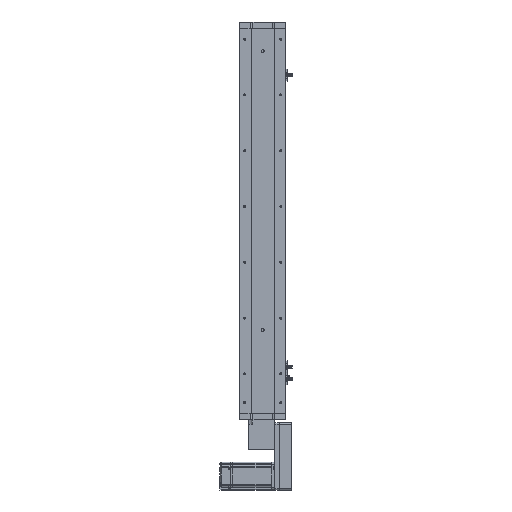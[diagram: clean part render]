
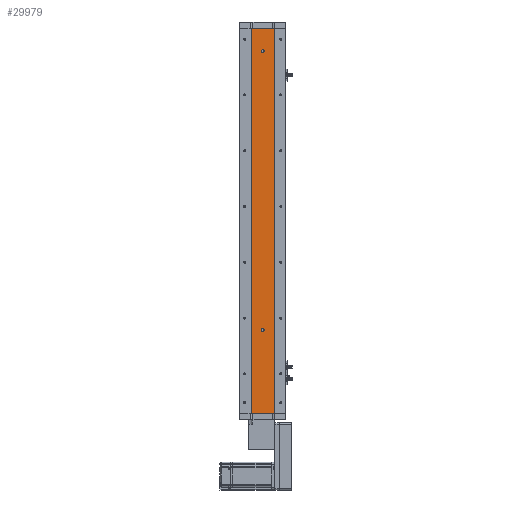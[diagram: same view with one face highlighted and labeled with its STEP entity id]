
A CAD part, left-side view. The second image highlights one B-rep face of the part: STEP entity #29979.
In plain terms, the highlighted planar face has unit normal (-1, 0, 0).
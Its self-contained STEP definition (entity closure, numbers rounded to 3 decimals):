
#265 = ORIENTED_EDGE ( 'NONE', *, *, #65372, .F. ) ;
#593 = ORIENTED_EDGE ( 'NONE', *, *, #55861, .T. ) ;
#883 = CARTESIAN_POINT ( 'NONE',  ( -18.926, -24.785, 830. ) ) ;
#3425 = AXIS2_PLACEMENT_3D ( 'NONE', #50177, #19697, #55318 ) ;
#3652 = DIRECTION ( 'NONE',  ( -1., 0., 0. ) ) ;
#3780 = CARTESIAN_POINT ( 'NONE',  ( -18.926, 0., 183. ) ) ;
#4413 = FACE_OUTER_BOUND ( 'NONE', #5155, .T. ) ;
#5155 = EDGE_LOOP ( 'NONE', ( #593, #27375, #29600, #21402 ) ) ;
#7337 = DIRECTION ( 'NONE',  ( -1., 0., 0. ) ) ;
#7818 = CARTESIAN_POINT ( 'NONE',  ( -18.926, 0., 180. ) ) ;
#8416 = VECTOR ( 'NONE', #64042, 1000. ) ;
#10630 = VECTOR ( 'NONE', #35107, 1000. ) ;
#12945 = DIRECTION ( 'NONE',  ( 0., 0., 1. ) ) ;
#16030 = CARTESIAN_POINT ( 'NONE',  ( -18.926, 0., 777. ) ) ;
#16391 = FACE_BOUND ( 'NONE', #19102, .T. ) ;
#17150 = ORIENTED_EDGE ( 'NONE', *, *, #58296, .F. ) ;
#17684 = VERTEX_POINT ( 'NONE', #39432 ) ;
#18221 = CARTESIAN_POINT ( 'NONE',  ( -18.926, 24.785, 830. ) ) ;
#18268 = ORIENTED_EDGE ( 'NONE', *, *, #56943, .F. ) ;
#19102 = EDGE_LOOP ( 'NONE', ( #265, #18268 ) ) ;
#19697 = DIRECTION ( 'NONE',  ( 1., 0., 0. ) ) ;
#21286 = CARTESIAN_POINT ( 'NONE',  ( -18.926, 0., 177. ) ) ;
#21402 = ORIENTED_EDGE ( 'NONE', *, *, #64392, .T. ) ;
#24218 = LINE ( 'NONE', #55366, #10630 ) ;
#25687 = ORIENTED_EDGE ( 'NONE', *, *, #44570, .F. ) ;
#26439 = DIRECTION ( 'NONE',  ( -1., 0., 0. ) ) ;
#27256 = EDGE_CURVE ( 'NONE', #17684, #56286, #45134, .T. ) ;
#27375 = ORIENTED_EDGE ( 'NONE', *, *, #27256, .F. ) ;
#29600 = ORIENTED_EDGE ( 'NONE', *, *, #63826, .F. ) ;
#29979 = ADVANCED_FACE ( 'NONE', ( #16391, #57011, #4413 ), #60219, .F. ) ;
#31233 = CIRCLE ( 'NONE', #54020, 3. ) ;
#31352 = CARTESIAN_POINT ( 'NONE',  ( -18.926, 24.785, 0. ) ) ;
#31972 = CARTESIAN_POINT ( 'NONE',  ( -18.926, 24.785, 0. ) ) ;
#32876 = VERTEX_POINT ( 'NONE', #43118 ) ;
#33250 = VECTOR ( 'NONE', #46496, 1000. ) ;
#33974 = LINE ( 'NONE', #18221, #8416 ) ;
#34087 = CARTESIAN_POINT ( 'NONE',  ( -18.926, -24.785, 0. ) ) ;
#34228 = CARTESIAN_POINT ( 'NONE',  ( -18.926, 0., 180. ) ) ;
#35107 = DIRECTION ( 'NONE',  ( 0., 0., -1. ) ) ;
#37915 = CARTESIAN_POINT ( 'NONE',  ( -18.926, 0., 780. ) ) ;
#38760 = CIRCLE ( 'NONE', #45529, 3. ) ;
#38983 = LINE ( 'NONE', #31972, #50828 ) ;
#39346 = DIRECTION ( 'NONE',  ( 0., 0., 1. ) ) ;
#39432 = CARTESIAN_POINT ( 'NONE',  ( -18.926, -24.785, 830. ) ) ;
#42234 = DIRECTION ( 'NONE',  ( 0., -1., 0. ) ) ;
#43016 = DIRECTION ( 'NONE',  ( 0., 0., 1. ) ) ;
#43118 = CARTESIAN_POINT ( 'NONE',  ( -18.926, 0., 783. ) ) ;
#43172 = VERTEX_POINT ( 'NONE', #31352 ) ;
#43449 = DIRECTION ( 'NONE',  ( -1., 0., 0. ) ) ;
#44570 = EDGE_CURVE ( 'NONE', #32876, #46272, #31233, .T. ) ;
#45134 = LINE ( 'NONE', #883, #33250 ) ;
#45529 = AXIS2_PLACEMENT_3D ( 'NONE', #34228, #3652, #39346 ) ;
#46232 = AXIS2_PLACEMENT_3D ( 'NONE', #7818, #43449, #12945 ) ;
#46272 = VERTEX_POINT ( 'NONE', #16030 ) ;
#46496 = DIRECTION ( 'NONE',  ( 0., 0., -1. ) ) ;
#50177 = CARTESIAN_POINT ( 'NONE',  ( -18.926, 24.785, 830. ) ) ;
#50828 = VECTOR ( 'NONE', #42234, 1000. ) ;
#51813 = VERTEX_POINT ( 'NONE', #3780 ) ;
#52157 = CARTESIAN_POINT ( 'NONE',  ( -18.926, 24.785, 830. ) ) ;
#52484 = EDGE_LOOP ( 'NONE', ( #25687, #17150 ) ) ;
#54020 = AXIS2_PLACEMENT_3D ( 'NONE', #37915, #7337, #43016 ) ;
#55318 = DIRECTION ( 'NONE',  ( 0., 0., -1. ) ) ;
#55366 = CARTESIAN_POINT ( 'NONE',  ( -18.926, 24.785, 830. ) ) ;
#55861 = EDGE_CURVE ( 'NONE', #43172, #56286, #38983, .T. ) ;
#56286 = VERTEX_POINT ( 'NONE', #34087 ) ;
#56897 = CARTESIAN_POINT ( 'NONE',  ( -18.926, 0., 780. ) ) ;
#56943 = EDGE_CURVE ( 'NONE', #64592, #51813, #38760, .T. ) ;
#57011 = FACE_BOUND ( 'NONE', #52484, .T. ) ;
#57243 = VERTEX_POINT ( 'NONE', #52157 ) ;
#57348 = CIRCLE ( 'NONE', #60174, 3. ) ;
#58296 = EDGE_CURVE ( 'NONE', #46272, #32876, #57348, .T. ) ;
#60174 = AXIS2_PLACEMENT_3D ( 'NONE', #56897, #26439, #62048 ) ;
#60219 = PLANE ( 'NONE',  #3425 ) ;
#62048 = DIRECTION ( 'NONE',  ( 0., 0., 1. ) ) ;
#63004 = CIRCLE ( 'NONE', #46232, 3. ) ;
#63826 = EDGE_CURVE ( 'NONE', #57243, #17684, #33974, .T. ) ;
#64042 = DIRECTION ( 'NONE',  ( 0., -1., 0. ) ) ;
#64392 = EDGE_CURVE ( 'NONE', #57243, #43172, #24218, .T. ) ;
#64592 = VERTEX_POINT ( 'NONE', #21286 ) ;
#65372 = EDGE_CURVE ( 'NONE', #51813, #64592, #63004, .T. ) ;
